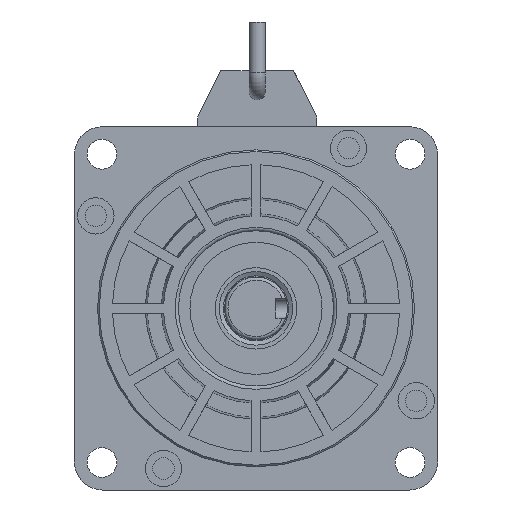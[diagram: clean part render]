
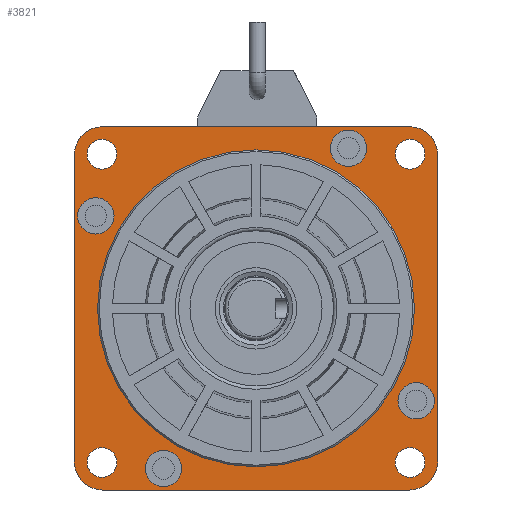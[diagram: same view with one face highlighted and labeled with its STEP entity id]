
A CAD part, front view. The second image highlights one B-rep face of the part: STEP entity #3821.
In plain terms, the highlighted planar face has unit normal (0, -1, 0).
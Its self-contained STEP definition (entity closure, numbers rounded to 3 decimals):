
#1682=LINE('',#20552,#2798);
#1766=LINE('',#20924,#2882);
#1767=LINE('',#20925,#2883);
#1768=LINE('',#20929,#2884);
#2798=VECTOR('',#16259,1.);
#2882=VECTOR('',#16583,1.);
#2883=VECTOR('',#16584,1.);
#2884=VECTOR('',#16587,1.);
#3821=ADVANCED_FACE('',(#4676,#4677,#4678,#4679,#4680,#4681,#4682,#4683,
#4684,#4685),#4297,.T.);
#4297=PLANE('',#13429);
#4676=FACE_BOUND('',#5516,.T.);
#4677=FACE_BOUND('',#5517,.T.);
#4678=FACE_BOUND('',#5518,.T.);
#4679=FACE_BOUND('',#5519,.T.);
#4680=FACE_BOUND('',#5520,.T.);
#4681=FACE_BOUND('',#5521,.T.);
#4682=FACE_BOUND('',#5522,.T.);
#4683=FACE_BOUND('',#5523,.T.);
#4684=FACE_BOUND('',#5524,.T.);
#4685=FACE_BOUND('',#5525,.T.);
#5516=EDGE_LOOP('',(#8526));
#5517=EDGE_LOOP('',(#8527));
#5518=EDGE_LOOP('',(#8528));
#5519=EDGE_LOOP('',(#8529));
#5520=EDGE_LOOP('',(#8530,#8531,#8532,#8533,#8534,#8535,#8536,#8537));
#5521=EDGE_LOOP('',(#8538));
#5522=EDGE_LOOP('',(#8539));
#5523=EDGE_LOOP('',(#8540));
#5524=EDGE_LOOP('',(#8541));
#5525=EDGE_LOOP('',(#8542));
#8526=ORIENTED_EDGE('',*,*,#11809,.T.);
#8527=ORIENTED_EDGE('',*,*,#11810,.T.);
#8528=ORIENTED_EDGE('',*,*,#11811,.T.);
#8529=ORIENTED_EDGE('',*,*,#11812,.T.);
#8530=ORIENTED_EDGE('',*,*,#11813,.T.);
#8531=ORIENTED_EDGE('',*,*,#11814,.F.);
#8532=ORIENTED_EDGE('',*,*,#11548,.T.);
#8533=ORIENTED_EDGE('',*,*,#11641,.F.);
#8534=ORIENTED_EDGE('',*,*,#11544,.T.);
#8535=ORIENTED_EDGE('',*,*,#11815,.F.);
#8536=ORIENTED_EDGE('',*,*,#11816,.T.);
#8537=ORIENTED_EDGE('',*,*,#11817,.F.);
#8538=ORIENTED_EDGE('',*,*,#11551,.T.);
#8539=ORIENTED_EDGE('',*,*,#11550,.T.);
#8540=ORIENTED_EDGE('',*,*,#11808,.F.);
#8541=ORIENTED_EDGE('',*,*,#11818,.T.);
#8542=ORIENTED_EDGE('',*,*,#11819,.T.);
#9998=VERTEX_POINT('',#20145);
#9999=VERTEX_POINT('',#20146);
#10000=VERTEX_POINT('',#20151);
#10001=VERTEX_POINT('',#20153);
#10002=VERTEX_POINT('',#20157);
#10003=VERTEX_POINT('',#20160);
#10168=VERTEX_POINT('',#20911);
#10169=VERTEX_POINT('',#20914);
#10170=VERTEX_POINT('',#20916);
#10171=VERTEX_POINT('',#20918);
#10172=VERTEX_POINT('',#20920);
#10173=VERTEX_POINT('',#20922);
#10174=VERTEX_POINT('',#20923);
#10175=VERTEX_POINT('',#20926);
#10176=VERTEX_POINT('',#20928);
#10177=VERTEX_POINT('',#20931);
#10178=VERTEX_POINT('',#20933);
#11544=EDGE_CURVE('',#9998,#9999,#12286,.T.);
#11548=EDGE_CURVE('',#10001,#10000,#12287,.T.);
#11550=EDGE_CURVE('',#10002,#10002,#12288,.T.);
#11551=EDGE_CURVE('',#10003,#10003,#12289,.T.);
#11641=EDGE_CURVE('',#9998,#10000,#1682,.T.);
#11808=EDGE_CURVE('',#10168,#10168,#12385,.T.);
#11809=EDGE_CURVE('',#10169,#10169,#12386,.T.);
#11810=EDGE_CURVE('',#10170,#10170,#12387,.T.);
#11811=EDGE_CURVE('',#10171,#10171,#12388,.T.);
#11812=EDGE_CURVE('',#10172,#10172,#12389,.T.);
#11813=EDGE_CURVE('',#10173,#10174,#12390,.T.);
#11814=EDGE_CURVE('',#10001,#10174,#1766,.T.);
#11815=EDGE_CURVE('',#10175,#9999,#1767,.T.);
#11816=EDGE_CURVE('',#10175,#10176,#12391,.T.);
#11817=EDGE_CURVE('',#10173,#10176,#1768,.T.);
#11818=EDGE_CURVE('',#10177,#10177,#12392,.T.);
#11819=EDGE_CURVE('',#10178,#10178,#12393,.T.);
#12286=CIRCLE('',#13243,8.5);
#12287=CIRCLE('',#13245,8.5);
#12288=CIRCLE('',#13247,5.5);
#12289=CIRCLE('',#13249,5.5);
#12385=CIRCLE('',#13419,48.);
#12386=CIRCLE('',#13421,4.5);
#12387=CIRCLE('',#13422,4.5);
#12388=CIRCLE('',#13423,4.5);
#12389=CIRCLE('',#13424,4.5);
#12390=CIRCLE('',#13425,8.5);
#12391=CIRCLE('',#13426,8.5);
#12392=CIRCLE('',#13427,5.5);
#12393=CIRCLE('',#13428,5.5);
#13243=AXIS2_PLACEMENT_3D('',#20144,#16088,#16089);
#13245=AXIS2_PLACEMENT_3D('',#20152,#16095,#16096);
#13247=AXIS2_PLACEMENT_3D('',#20156,#16100,#16101);
#13249=AXIS2_PLACEMENT_3D('',#20159,#16104,#16105);
#13419=AXIS2_PLACEMENT_3D('',#20910,#16569,#16570);
#13421=AXIS2_PLACEMENT_3D('',#20913,#16573,#16574);
#13422=AXIS2_PLACEMENT_3D('',#20915,#16575,#16576);
#13423=AXIS2_PLACEMENT_3D('',#20917,#16577,#16578);
#13424=AXIS2_PLACEMENT_3D('',#20919,#16579,#16580);
#13425=AXIS2_PLACEMENT_3D('',#20921,#16581,#16582);
#13426=AXIS2_PLACEMENT_3D('',#20927,#16585,#16586);
#13427=AXIS2_PLACEMENT_3D('',#20930,#16588,#16589);
#13428=AXIS2_PLACEMENT_3D('',#20932,#16590,#16591);
#13429=AXIS2_PLACEMENT_3D('',#20934,#16592,#16593);
#16088=DIRECTION('',(0.,-1.,0.));
#16089=DIRECTION('',(-1.,0.,0.));
#16095=DIRECTION('',(0.,-1.,0.));
#16096=DIRECTION('',(-1.,0.,0.));
#16100=DIRECTION('',(0.,1.,0.));
#16101=DIRECTION('',(-1.,0.,0.));
#16104=DIRECTION('',(0.,1.,0.));
#16105=DIRECTION('',(-1.,0.,0.));
#16259=DIRECTION('',(0.,0.,1.));
#16569=DIRECTION('',(0.,-1.,0.));
#16570=DIRECTION('',(-1.,0.,0.));
#16573=DIRECTION('',(0.,1.,0.));
#16574=DIRECTION('',(-1.,0.,0.));
#16575=DIRECTION('',(0.,1.,0.));
#16576=DIRECTION('',(-1.,0.,0.));
#16577=DIRECTION('',(0.,1.,0.));
#16578=DIRECTION('',(-1.,0.,0.));
#16579=DIRECTION('',(0.,1.,0.));
#16580=DIRECTION('',(-1.,0.,0.));
#16581=DIRECTION('',(0.,-1.,0.));
#16582=DIRECTION('',(-1.,0.,0.));
#16583=DIRECTION('',(1.,0.,0.));
#16584=DIRECTION('',(-1.,0.,0.));
#16585=DIRECTION('',(0.,-1.,0.));
#16586=DIRECTION('',(-1.,0.,0.));
#16587=DIRECTION('',(0.,0.,-1.));
#16588=DIRECTION('',(0.,1.,0.));
#16589=DIRECTION('',(-1.,0.,0.));
#16590=DIRECTION('',(0.,1.,0.));
#16591=DIRECTION('',(-1.,0.,0.));
#16592=DIRECTION('',(0.,-1.,0.));
#16593=DIRECTION('',(1.,0.,0.));
#20144=CARTESIAN_POINT('',(-92.608,264.796,-148.75));
#20145=CARTESIAN_POINT('',(-101.108,264.796,-148.75));
#20146=CARTESIAN_POINT('',(-92.608,264.796,-157.25));
#20151=CARTESIAN_POINT('',(-101.108,264.796,-55.75));
#20152=CARTESIAN_POINT('',(-92.608,264.796,-55.75));
#20153=CARTESIAN_POINT('',(-92.608,264.796,-47.25));
#20156=CARTESIAN_POINT('',(-94.605,264.796,-74.25));
#20157=CARTESIAN_POINT('',(-100.105,264.796,-74.25));
#20159=CARTESIAN_POINT('',(-74.108,264.796,-150.747));
#20160=CARTESIAN_POINT('',(-79.608,264.796,-150.747));
#20552=CARTESIAN_POINT('',(-101.108,264.796,-102.25));
#20910=CARTESIAN_POINT('',(-46.108,264.796,-102.25));
#20911=CARTESIAN_POINT('',(-94.108,264.796,-102.25));
#20913=CARTESIAN_POINT('',(0.561,264.796,-55.581));
#20914=CARTESIAN_POINT('',(-3.939,264.796,-55.581));
#20915=CARTESIAN_POINT('',(-92.777,264.796,-55.581));
#20916=CARTESIAN_POINT('',(-97.277,264.796,-55.581));
#20917=CARTESIAN_POINT('',(-92.777,264.796,-148.919));
#20918=CARTESIAN_POINT('',(-97.277,264.796,-148.919));
#20919=CARTESIAN_POINT('',(0.561,264.796,-148.919));
#20920=CARTESIAN_POINT('',(-3.939,264.796,-148.919));
#20921=CARTESIAN_POINT('',(0.392,264.796,-55.75));
#20922=CARTESIAN_POINT('',(8.892,264.796,-55.75));
#20923=CARTESIAN_POINT('',(0.392,264.796,-47.25));
#20924=CARTESIAN_POINT('',(-46.108,264.796,-47.25));
#20925=CARTESIAN_POINT('',(-46.108,264.796,-157.25));
#20926=CARTESIAN_POINT('',(0.392,264.796,-157.25));
#20927=CARTESIAN_POINT('',(0.392,264.796,-148.75));
#20928=CARTESIAN_POINT('',(8.892,264.796,-148.75));
#20929=CARTESIAN_POINT('',(8.892,264.796,-102.25));
#20930=CARTESIAN_POINT('',(2.389,264.796,-130.25));
#20931=CARTESIAN_POINT('',(-3.111,264.796,-130.25));
#20932=CARTESIAN_POINT('',(-18.108,264.796,-53.753));
#20933=CARTESIAN_POINT('',(-23.608,264.796,-53.753));
#20934=CARTESIAN_POINT('',(-46.108,264.796,-102.25));
